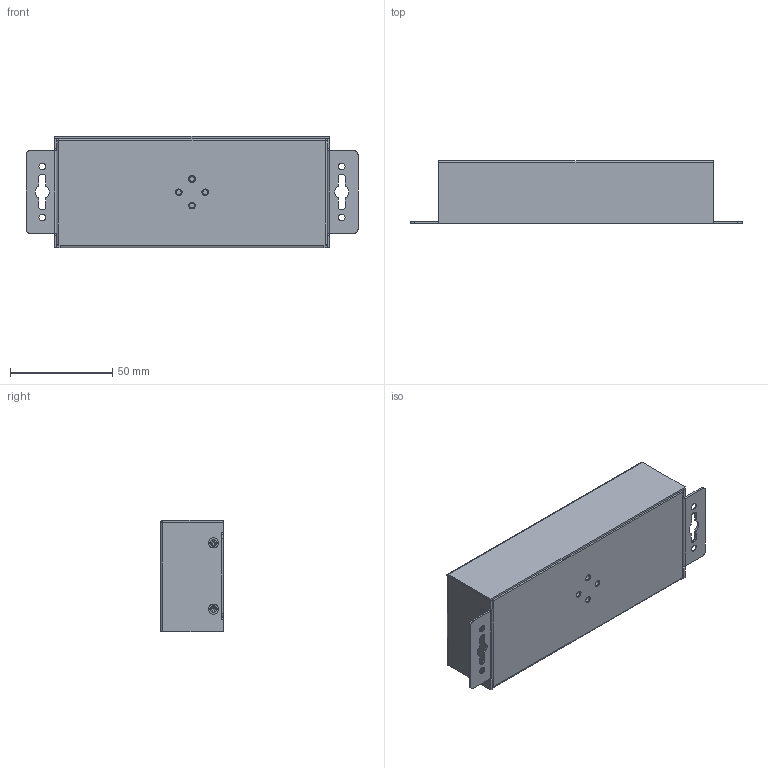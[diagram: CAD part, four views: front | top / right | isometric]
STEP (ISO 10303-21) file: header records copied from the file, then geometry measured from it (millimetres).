
FILE_DESCRIPTION(/* description */ (''),/* implementation_level */ '2;1');
FILE_NAME(/* name */ 'C:/Users/Leo/Desktop/CG-7U3CML model3d LPV1.step',/* time_stamp */ '2021-03-23T15:51:47-04:00',/* author */ (''),/* organization */ (''),/* preprocessor_version */ 'ST-DEVELOPER v18.1',/* originating_system */ 'Autodesk Translation Framework v9.10.0.1330',/* authorisation */ '');
FILE_SCHEMA (('AUTOMOTIVE_DESIGN { 1 0 10303 214 3 1 1 }'));
Products named in the file (1): (Unsaved)
Bounding box: 162.7 x 30.7 x 54.5 mm (x, y, z)
Volume: 110833.1 mm3; surface area: 73748.3 mm2
Topology: 1 solids, 5 shells, 1629 faces, 4500 edges, 2911 vertices
Faces by surface type: plane 912, cylinder 583, bspline 80, cone 52, sphere 2
Full cylindrical faces by diameter (mm): 1 x1, 1.5 x16, 2.323 x12, 2.355 x36, 2.4 x1, 2.529 x54, 2.89 x1, 3 x8, 3.25 x4, 4 x8, 5.3 x4, 5.5 x4, 8.5 x1
Entity records: 65319 total; most frequent: CARTESIAN_POINT 23703, ORIENTED_EDGE 8988, DIRECTION 8386, EDGE_CURVE 4494, VERTEX_POINT 2911, LINE 2898, VECTOR 2898, AXIS2_PLACEMENT_3D 2744
